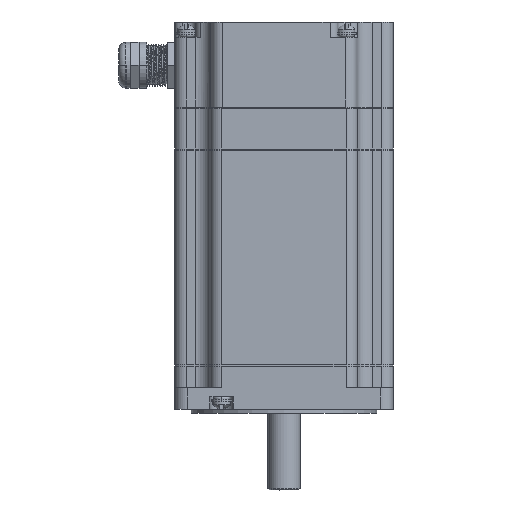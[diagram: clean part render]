
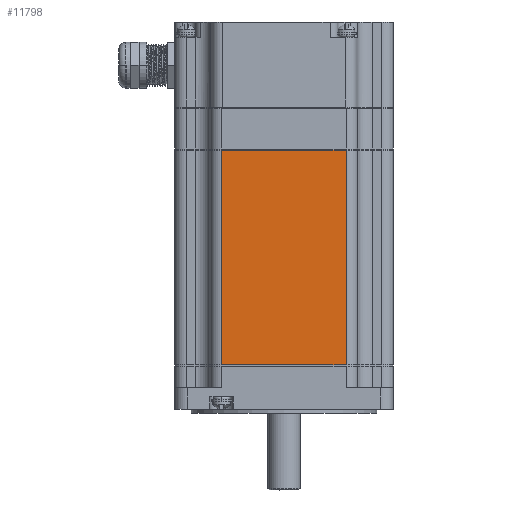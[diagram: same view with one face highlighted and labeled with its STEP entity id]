
A CAD part, front view. The second image highlights one B-rep face of the part: STEP entity #11798.
In plain terms, the highlighted planar face has unit normal (0, -1, 0).
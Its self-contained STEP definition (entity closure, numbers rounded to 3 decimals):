
#5666=DIRECTION('',(1.,0.,0.));
#5667=VECTOR('',#5666,48.94);
#5668=CARTESIAN_POINT('',(-24.47,-43.,0.));
#5669=LINE('',#5668,#5667);
#6844=DIRECTION('',(0.,0.,1.));
#6845=VECTOR('',#6844,84.5);
#6846=CARTESIAN_POINT('',(24.47,-43.,0.));
#6847=LINE('',#6846,#6845);
#6848=DIRECTION('',(0.,0.,1.));
#6849=VECTOR('',#6848,84.5);
#6850=CARTESIAN_POINT('',(-24.47,-43.,0.));
#6851=LINE('',#6850,#6849);
#6951=DIRECTION('',(1.,0.,0.));
#6952=VECTOR('',#6951,48.94);
#6953=CARTESIAN_POINT('',(-24.47,-43.,84.5));
#6954=LINE('',#6953,#6952);
#9726=CARTESIAN_POINT('',(-24.47,-43.,0.));
#9727=VERTEX_POINT('',#9726);
#9728=CARTESIAN_POINT('',(24.47,-43.,0.));
#9729=VERTEX_POINT('',#9728);
#9774=CARTESIAN_POINT('',(-24.47,-43.,84.5));
#9775=VERTEX_POINT('',#9774);
#9776=CARTESIAN_POINT('',(24.47,-43.,84.5));
#9777=VERTEX_POINT('',#9776);
#11785=CARTESIAN_POINT('',(-24.47,-43.,0.));
#11786=DIRECTION('',(0.,-1.,0.));
#11787=DIRECTION('',(1.,0.,0.));
#11788=AXIS2_PLACEMENT_3D('',#11785,#11786,#11787);
#11789=PLANE('',#11788);
#11790=ORIENTED_EDGE('',*,*,#10979,.F.);
#11792=ORIENTED_EDGE('',*,*,#11791,.T.);
#11794=ORIENTED_EDGE('',*,*,#11793,.T.);
#11795=ORIENTED_EDGE('',*,*,#11777,.F.);
#11796=EDGE_LOOP('',(#11790,#11792,#11794,#11795));
#11797=FACE_OUTER_BOUND('',#11796,.F.);
#11798=ADVANCED_FACE('',(#11797),#11789,.T.);
#10979=EDGE_CURVE('',#9727,#9729,#5669,.T.);
#11777=EDGE_CURVE('',#9729,#9777,#6847,.T.);
#11791=EDGE_CURVE('',#9727,#9775,#6851,.T.);
#11793=EDGE_CURVE('',#9775,#9777,#6954,.T.);
